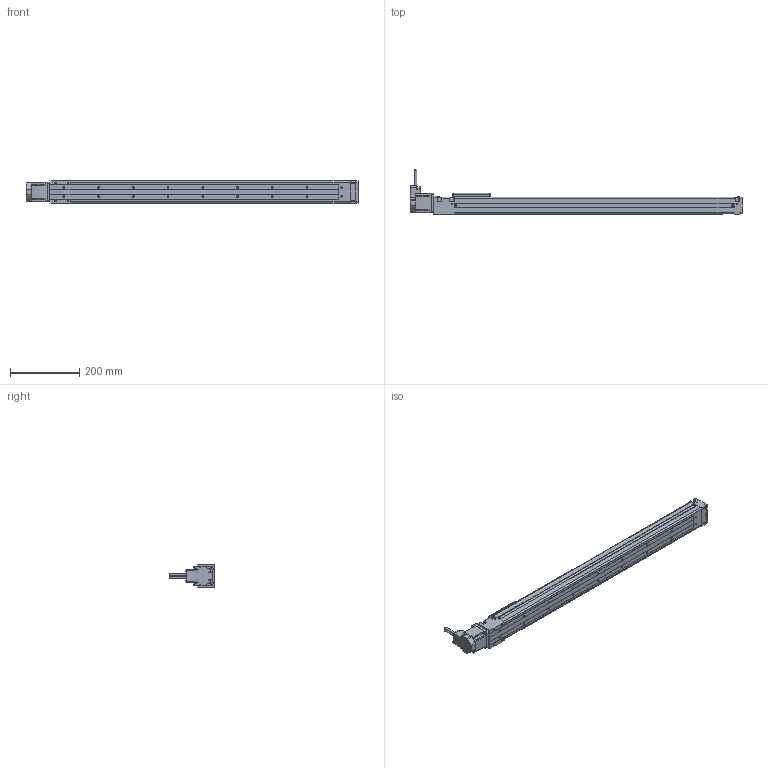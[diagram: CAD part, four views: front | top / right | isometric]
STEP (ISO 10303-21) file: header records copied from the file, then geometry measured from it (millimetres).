
FILE_DESCRIPTION(/* description */ ('Alibre Inc.'),/* implementation_level */ '2;1');
FILE_NAME(/* name */ 'export0',/* time_stamp */ '2010-04-01T10:51:45-04:00',/* author */ (''),/* organization */ (''),/* preprocessor_version */ 'ST-DEVELOPER v10',/* originating_system */ 'Alibre',/* authorisation */ '');
FILE_SCHEMA (('CONFIG_CONTROL_DESIGN'));
Length unit declared in the file: centimetre
Products named in the file (6): 1; 2; ID_1; ID_2; ID_3
Bounding box: 956 x 127.68 x 64 mm (x, y, z)
Volume: 914438 mm3; surface area: 479515.1 mm2
Topology: 4 solids, 4 shells, 857 faces, 2236 edges, 1398 vertices
Faces by surface type: plane 487, cylinder 228, cone 110, torus 28, sphere 4
Full cylindrical faces by diameter (mm): 3.5 x2, 4.5 x4, 5.5 x1, 6.5 x1, 8 x1, 38.13 x1, 38.15 x1
Entity records: 26179 total; most frequent: CARTESIAN_POINT 4735, ORIENTED_EDGE 4404, DIRECTION 3991, EDGE_CURVE 2202, VECTOR 1554, LINE 1554, AXIS2_PLACEMENT_3D 1472, VERTEX_POINT 1391
